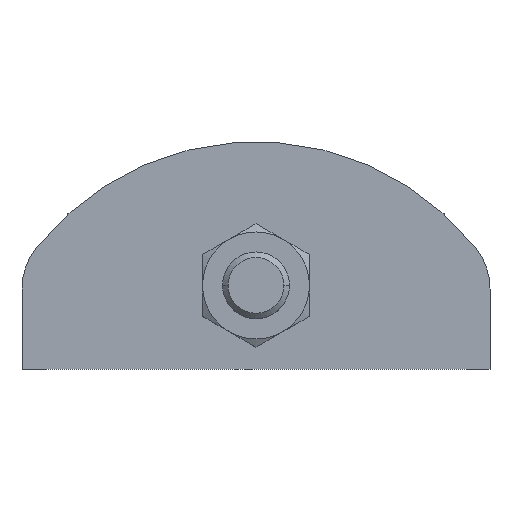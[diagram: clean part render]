
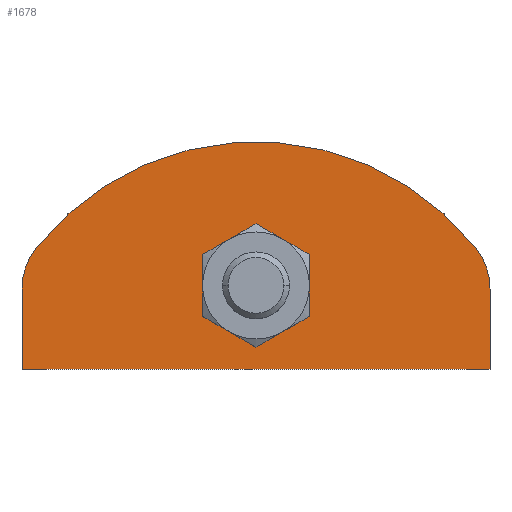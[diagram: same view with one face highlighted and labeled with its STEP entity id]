
A CAD part, top view. The second image highlights one B-rep face of the part: STEP entity #1678.
In plain terms, the highlighted planar face has unit normal (0, 0, 1).
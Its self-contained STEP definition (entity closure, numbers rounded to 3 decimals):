
#14 = CARTESIAN_POINT ( 'NONE',  ( -35., -5.987, 10. ) ) ;
#38 = ORIENTED_EDGE ( 'NONE', *, *, #429, .F. ) ;
#69 = DIRECTION ( 'NONE',  ( 1., 0., 0. ) ) ;
#198 = FACE_OUTER_BOUND ( 'NONE', #772, .T. ) ;
#212 = EDGE_CURVE ( 'NONE', #2376, #2208, #3019, .T. ) ;
#256 = CARTESIAN_POINT ( 'NONE',  ( 35., -5.987, 10. ) ) ;
#274 = FACE_BOUND ( 'NONE', #2826, .T. ) ;
#392 = AXIS2_PLACEMENT_3D ( 'NONE', #2831, #888, #1616 ) ;
#429 = EDGE_CURVE ( 'NONE', #856, #2834, #830, .T. ) ;
#445 = EDGE_CURVE ( 'NONE', #2834, #856, #1324, .T. ) ;
#501 = CARTESIAN_POINT ( 'NONE',  ( 0., -13.987, 10. ) ) ;
#543 = CARTESIAN_POINT ( 'NONE',  ( -25., 5.987, 10. ) ) ;
#600 = CARTESIAN_POINT ( 'NONE',  ( 0., 6.513, 10. ) ) ;
#643 = VECTOR ( 'NONE', #1398, 1000. ) ;
#650 = AXIS2_PLACEMENT_3D ( 'NONE', #2979, #2514, #1778 ) ;
#665 = ORIENTED_EDGE ( 'NONE', *, *, #2378, .T. ) ;
#702 = CARTESIAN_POINT ( 'NONE',  ( -35., 5.987, 10. ) ) ;
#772 = EDGE_LOOP ( 'NONE', ( #2611, #1561, #1419, #665, #948, #2543 ) ) ;
#830 = CIRCLE ( 'NONE', #650, 7.55 ) ;
#856 = VERTEX_POINT ( 'NONE', #899 ) ;
#868 = EDGE_CURVE ( 'NONE', #1683, #2376, #2030, .T. ) ;
#888 = DIRECTION ( 'NONE',  ( 0., 0., 1. ) ) ;
#890 = LINE ( 'NONE', #2082, #1010 ) ;
#893 = PLANE ( 'NONE',  #2893 ) ;
#899 = CARTESIAN_POINT ( 'NONE',  ( 7.55, 6.513, 10. ) ) ;
#948 = ORIENTED_EDGE ( 'NONE', *, *, #1676, .T. ) ;
#973 = AXIS2_PLACEMENT_3D ( 'NONE', #501, #1232, #69 ) ;
#1009 = EDGE_CURVE ( 'NONE', #1101, #2250, #2401, .T. ) ;
#1010 = VECTOR ( 'NONE', #1814, 1000. ) ;
#1101 = VERTEX_POINT ( 'NONE', #1881 ) ;
#1176 = CARTESIAN_POINT ( 'NONE',  ( 35., 5.987, 10. ) ) ;
#1232 = DIRECTION ( 'NONE',  ( 0., 0., 1. ) ) ;
#1255 = AXIS2_PLACEMENT_3D ( 'NONE', #600, #2249, #2955 ) ;
#1324 = CIRCLE ( 'NONE', #1255, 7.55 ) ;
#1387 = DIRECTION ( 'NONE',  ( 0., 0., 1. ) ) ;
#1398 = DIRECTION ( 'NONE',  ( 0., -1., 0. ) ) ;
#1419 = ORIENTED_EDGE ( 'NONE', *, *, #212, .T. ) ;
#1445 = DIRECTION ( 'NONE',  ( 1., 0., 0. ) ) ;
#1505 = DIRECTION ( 'NONE',  ( 1., 0., 0. ) ) ;
#1561 = ORIENTED_EDGE ( 'NONE', *, *, #868, .T. ) ;
#1577 = CARTESIAN_POINT ( 'NONE',  ( -7.55, 6.513, 10. ) ) ;
#1616 = DIRECTION ( 'NONE',  ( 1., 0., 0. ) ) ;
#1648 = CARTESIAN_POINT ( 'NONE',  ( 25., 5.987, 10. ) ) ;
#1676 = EDGE_CURVE ( 'NONE', #2020, #1101, #2002, .T. ) ;
#1678 = ADVANCED_FACE ( 'NONE', ( #274, #198 ), #893, .T. ) ;
#1683 = VERTEX_POINT ( 'NONE', #1176 ) ;
#1767 = VECTOR ( 'NONE', #1445, 1000. ) ;
#1778 = DIRECTION ( 'NONE',  ( 1., 0., 0. ) ) ;
#1814 = DIRECTION ( 'NONE',  ( 0., 1., 0. ) ) ;
#1881 = CARTESIAN_POINT ( 'NONE',  ( -35., -5.987, 10. ) ) ;
#1886 = ORIENTED_EDGE ( 'NONE', *, *, #445, .F. ) ;
#1894 = CARTESIAN_POINT ( 'NONE',  ( -35., 5.987, 10. ) ) ;
#2002 = LINE ( 'NONE', #1894, #643 ) ;
#2008 = CARTESIAN_POINT ( 'NONE',  ( 32.813, 12.23, 10. ) ) ;
#2020 = VERTEX_POINT ( 'NONE', #702 ) ;
#2030 = CIRCLE ( 'NONE', #392, 10. ) ;
#2079 = DIRECTION ( 'NONE',  ( 1., 0., 0. ) ) ;
#2082 = CARTESIAN_POINT ( 'NONE',  ( 35., -5.987, 10. ) ) ;
#2208 = VERTEX_POINT ( 'NONE', #2892 ) ;
#2249 = DIRECTION ( 'NONE',  ( 0., 0., 1. ) ) ;
#2250 = VERTEX_POINT ( 'NONE', #256 ) ;
#2260 = CIRCLE ( 'NONE', #2625, 10. ) ;
#2376 = VERTEX_POINT ( 'NONE', #2008 ) ;
#2378 = EDGE_CURVE ( 'NONE', #2208, #2020, #2260, .T. ) ;
#2401 = LINE ( 'NONE', #14, #1767 ) ;
#2451 = DIRECTION ( 'NONE',  ( 0., 0., 1. ) ) ;
#2514 = DIRECTION ( 'NONE',  ( 0., 0., 1. ) ) ;
#2543 = ORIENTED_EDGE ( 'NONE', *, *, #1009, .T. ) ;
#2611 = ORIENTED_EDGE ( 'NONE', *, *, #2830, .T. ) ;
#2625 = AXIS2_PLACEMENT_3D ( 'NONE', #543, #2451, #1505 ) ;
#2826 = EDGE_LOOP ( 'NONE', ( #38, #1886 ) ) ;
#2830 = EDGE_CURVE ( 'NONE', #2250, #1683, #890, .T. ) ;
#2831 = CARTESIAN_POINT ( 'NONE',  ( 25., 5.987, 10. ) ) ;
#2834 = VERTEX_POINT ( 'NONE', #1577 ) ;
#2892 = CARTESIAN_POINT ( 'NONE',  ( -32.813, 12.23, 10. ) ) ;
#2893 = AXIS2_PLACEMENT_3D ( 'NONE', #1648, #1387, #2079 ) ;
#2955 = DIRECTION ( 'NONE',  ( 1., 0., 0. ) ) ;
#2979 = CARTESIAN_POINT ( 'NONE',  ( 0., 6.513, 10. ) ) ;
#3019 = CIRCLE ( 'NONE', #973, 42. ) ;
